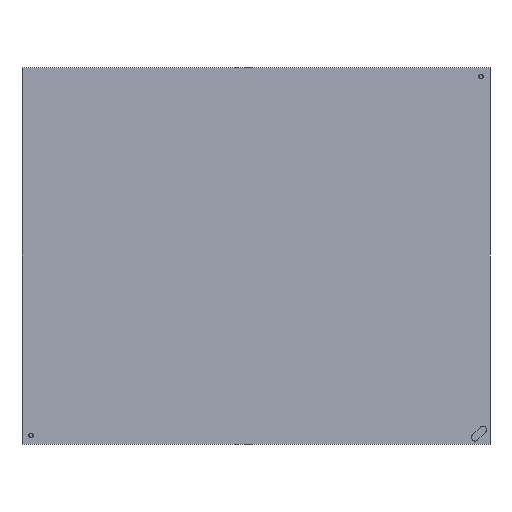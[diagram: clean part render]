
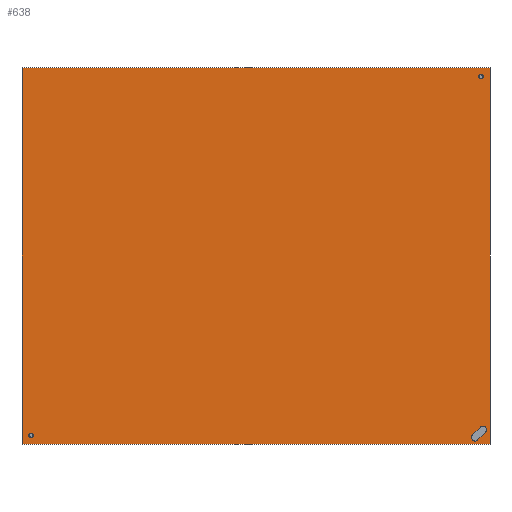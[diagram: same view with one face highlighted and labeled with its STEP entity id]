
A CAD part, front view. The second image highlights one B-rep face of the part: STEP entity #638.
In plain terms, the highlighted planar face has unit normal (0, -1, 0).
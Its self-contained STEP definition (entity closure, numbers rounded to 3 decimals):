
#9 = VECTOR ( 'NONE', #448, 1000. ) ;
#31 = EDGE_CURVE ( 'NONE', #140, #231, #546, .T. ) ;
#33 = CARTESIAN_POINT ( 'NONE',  ( 257., 0., -207. ) ) ;
#34 = FACE_OUTER_BOUND ( 'NONE', #796, .T. ) ;
#43 = EDGE_CURVE ( 'NONE', #602, #282, #717, .T. ) ;
#45 = VECTOR ( 'NONE', #880, 1000. ) ;
#60 = DIRECTION ( 'NONE',  ( 0., -1., 0. ) ) ;
#61 = CARTESIAN_POINT ( 'NONE',  ( 240.757, 0., -203.243 ) ) ;
#65 = EDGE_CURVE ( 'NONE', #231, #876, #361, .T. ) ;
#93 = CARTESIAN_POINT ( 'NONE',  ( -257., 0., 207. ) ) ;
#118 = VERTEX_POINT ( 'NONE', #913 ) ;
#140 = VERTEX_POINT ( 'NONE', #606 ) ;
#157 = ORIENTED_EDGE ( 'NONE', *, *, #299, .F. ) ;
#173 = ORIENTED_EDGE ( 'NONE', *, *, #65, .F. ) ;
#174 = DIRECTION ( 'NONE',  ( 0., 0., 1. ) ) ;
#195 = LINE ( 'NONE', #586, #9 ) ;
#197 = ORIENTED_EDGE ( 'NONE', *, *, #31, .F. ) ;
#219 = DIRECTION ( 'NONE',  ( 0., 0., -1. ) ) ;
#222 = ORIENTED_EDGE ( 'NONE', *, *, #371, .F. ) ;
#231 = VERTEX_POINT ( 'NONE', #746 ) ;
#238 = VECTOR ( 'NONE', #242, 1000. ) ;
#242 = DIRECTION ( 'NONE',  ( 1., 0., 0. ) ) ;
#260 = ORIENTED_EDGE ( 'NONE', *, *, #675, .F. ) ;
#282 = VERTEX_POINT ( 'NONE', #805 ) ;
#299 = EDGE_CURVE ( 'NONE', #282, #118, #803, .T. ) ;
#305 = CARTESIAN_POINT ( 'NONE',  ( -257., 0., -207. ) ) ;
#309 = CARTESIAN_POINT ( 'NONE',  ( 0., 0., 0. ) ) ;
#310 = EDGE_CURVE ( 'NONE', #370, #602, #784, .T. ) ;
#338 = VECTOR ( 'NONE', #775, 1000. ) ;
#352 = AXIS2_PLACEMENT_3D ( 'NONE', #393, #888, #460 ) ;
#360 = AXIS2_PLACEMENT_3D ( 'NONE', #571, #60, #219 ) ;
#361 = CIRCLE ( 'NONE', #360, 4. ) ;
#370 = VERTEX_POINT ( 'NONE', #810 ) ;
#371 = EDGE_CURVE ( 'NONE', #512, #374, #195, .T. ) ;
#374 = VERTEX_POINT ( 'NONE', #527 ) ;
#387 = CIRCLE ( 'NONE', #755, 4. ) ;
#393 = CARTESIAN_POINT ( 'NONE',  ( 240.757, 0., -199.243 ) ) ;
#396 = CARTESIAN_POINT ( 'NONE',  ( 249.243, 0., -190.757 ) ) ;
#435 = CIRCLE ( 'NONE', #352, 4. ) ;
#448 = DIRECTION ( 'NONE',  ( 0.707, 0., 0.707 ) ) ;
#460 = DIRECTION ( 'NONE',  ( 0., 0., -1. ) ) ;
#467 = DIRECTION ( 'NONE',  ( 0., 0., -1. ) ) ;
#512 = VERTEX_POINT ( 'NONE', #860 ) ;
#517 = EDGE_LOOP ( 'NONE', ( #173, #197, #786, #222, #645 ) ) ;
#527 = CARTESIAN_POINT ( 'NONE',  ( 252.071, 0., -193.586 ) ) ;
#536 = DIRECTION ( 'NONE',  ( 0., 0., -1. ) ) ;
#546 = LINE ( 'NONE', #850, #908 ) ;
#549 = VECTOR ( 'NONE', #536, 1000. ) ;
#571 = CARTESIAN_POINT ( 'NONE',  ( 240.757, 0., -199.243 ) ) ;
#586 = CARTESIAN_POINT ( 'NONE',  ( 243.586, 0., -202.071 ) ) ;
#593 = DIRECTION ( 'NONE',  ( 0., 1., 0. ) ) ;
#602 = VERTEX_POINT ( 'NONE', #305 ) ;
#606 = CARTESIAN_POINT ( 'NONE',  ( 246.414, 0., -187.929 ) ) ;
#630 = DIRECTION ( 'NONE',  ( -0.707, 0., -0.707 ) ) ;
#638 = ADVANCED_FACE ( 'NONE', ( #839, #34 ), #808, .F. ) ;
#645 = ORIENTED_EDGE ( 'NONE', *, *, #879, .F. ) ;
#652 = AXIS2_PLACEMENT_3D ( 'NONE', #309, #593, #174 ) ;
#662 = EDGE_CURVE ( 'NONE', #374, #140, #387, .T. ) ;
#675 = EDGE_CURVE ( 'NONE', #118, #370, #745, .T. ) ;
#706 = ORIENTED_EDGE ( 'NONE', *, *, #43, .F. ) ;
#717 = LINE ( 'NONE', #780, #338 ) ;
#745 = LINE ( 'NONE', #829, #549 ) ;
#746 = CARTESIAN_POINT ( 'NONE',  ( 237.929, 0., -196.414 ) ) ;
#755 = AXIS2_PLACEMENT_3D ( 'NONE', #396, #896, #467 ) ;
#775 = DIRECTION ( 'NONE',  ( 0., 0., 1. ) ) ;
#780 = CARTESIAN_POINT ( 'NONE',  ( -257., 0., -207. ) ) ;
#784 = LINE ( 'NONE', #33, #45 ) ;
#786 = ORIENTED_EDGE ( 'NONE', *, *, #662, .F. ) ;
#796 = EDGE_LOOP ( 'NONE', ( #157, #706, #887, #260 ) ) ;
#803 = LINE ( 'NONE', #93, #238 ) ;
#805 = CARTESIAN_POINT ( 'NONE',  ( -257., 0., 207. ) ) ;
#808 = PLANE ( 'NONE',  #652 ) ;
#810 = CARTESIAN_POINT ( 'NONE',  ( 257., 0., -207. ) ) ;
#829 = CARTESIAN_POINT ( 'NONE',  ( 257., 0., 207. ) ) ;
#839 = FACE_BOUND ( 'NONE', #517, .T. ) ;
#850 = CARTESIAN_POINT ( 'NONE',  ( 246.414, 0., -187.929 ) ) ;
#860 = CARTESIAN_POINT ( 'NONE',  ( 243.586, 0., -202.071 ) ) ;
#876 = VERTEX_POINT ( 'NONE', #61 ) ;
#879 = EDGE_CURVE ( 'NONE', #876, #512, #435, .T. ) ;
#880 = DIRECTION ( 'NONE',  ( -1., 0., 0. ) ) ;
#887 = ORIENTED_EDGE ( 'NONE', *, *, #310, .F. ) ;
#888 = DIRECTION ( 'NONE',  ( 0., -1., 0. ) ) ;
#896 = DIRECTION ( 'NONE',  ( 0., -1., 0. ) ) ;
#908 = VECTOR ( 'NONE', #630, 1000. ) ;
#913 = CARTESIAN_POINT ( 'NONE',  ( 257., 0., 207. ) ) ;
